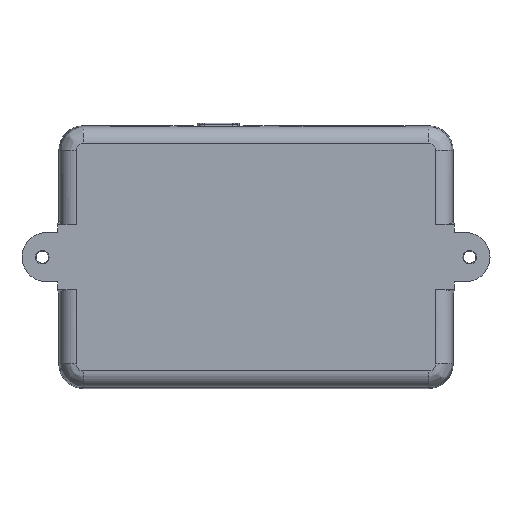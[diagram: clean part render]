
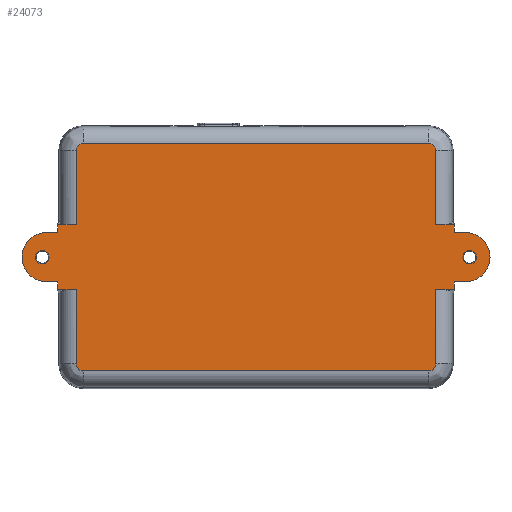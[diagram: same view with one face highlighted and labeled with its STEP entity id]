
A CAD part, front view. The second image highlights one B-rep face of the part: STEP entity #24073.
In plain terms, the highlighted planar face has unit normal (0, -1, 0).
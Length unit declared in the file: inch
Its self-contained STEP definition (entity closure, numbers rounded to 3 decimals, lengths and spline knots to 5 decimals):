
#749=FACE_BOUND($,#3961,.T.);
#750=FACE_BOUND($,#3962,.T.);
#1077=CIRCLE($,#25432,0.10275);
#1079=CIRCLE($,#25435,0.10275);
#1116=CIRCLE($,#25497,0.375);
#1117=CIRCLE($,#25498,0.10725);
#1118=CIRCLE($,#25499,0.10725);
#1119=CIRCLE($,#25500,0.375);
#1120=CIRCLE($,#25501,0.10725);
#1121=CIRCLE($,#25502,0.10725);
#1531=PLANE($,#25496);
#2616=FACE_OUTER_BOUND($,#3960,.T.);
#3960=EDGE_LOOP($,(#17093,#17094,#17095,#17096,#17097,#17098,#17099,#17100,
#17101,#17102,#17103,#17104,#17105,#17106,#17107,#17108,#17109,#17110,#17111,
#17112,#17113,#17114,#17115,#17116));
#3961=EDGE_LOOP($,(#17117));
#3962=EDGE_LOOP($,(#17118));
#5542=LINE($,#33937,#8274);
#5543=LINE($,#33939,#8275);
#5544=LINE($,#33943,#8276);
#5545=LINE($,#33945,#8277);
#5546=LINE($,#33947,#8278);
#5547=LINE($,#33949,#8279);
#5548=LINE($,#33953,#8280);
#5549=LINE($,#33957,#8281);
#5550=LINE($,#33959,#8282);
#5551=LINE($,#33961,#8283);
#5552=LINE($,#33963,#8284);
#5553=LINE($,#33967,#8285);
#5554=LINE($,#33969,#8286);
#5555=LINE($,#33971,#8287);
#5556=LINE($,#33973,#8288);
#5557=LINE($,#33977,#8289);
#5558=LINE($,#33981,#8290);
#5559=LINE($,#33982,#8291);
#8274=VECTOR($,#27533,0.12153);
#8275=VECTOR($,#27534,0.16826);
#8276=VECTOR($,#27537,0.16826);
#8277=VECTOR($,#27538,0.12153);
#8278=VECTOR($,#27539,0.2875);
#8279=VECTOR($,#27540,1.13247);
#8280=VECTOR($,#27543,5.264);
#8281=VECTOR($,#27546,1.13247);
#8282=VECTOR($,#27547,0.2875);
#8283=VECTOR($,#27548,0.12153);
#8284=VECTOR($,#27549,0.16826);
#8285=VECTOR($,#27552,0.16826);
#8286=VECTOR($,#27553,0.12153);
#8287=VECTOR($,#27554,0.2875);
#8288=VECTOR($,#27555,1.13247);
#8289=VECTOR($,#27558,5.264);
#8290=VECTOR($,#27561,1.13247);
#8291=VECTOR($,#27562,0.2875);
#11055=VERTEX_POINT($,#33823);
#11057=VERTEX_POINT($,#33828);
#11102=VERTEX_POINT($,#33935);
#11103=VERTEX_POINT($,#33936);
#11104=VERTEX_POINT($,#33938);
#11105=VERTEX_POINT($,#33940);
#11106=VERTEX_POINT($,#33942);
#11107=VERTEX_POINT($,#33944);
#11108=VERTEX_POINT($,#33946);
#11109=VERTEX_POINT($,#33948);
#11110=VERTEX_POINT($,#33950);
#11111=VERTEX_POINT($,#33952);
#11112=VERTEX_POINT($,#33954);
#11113=VERTEX_POINT($,#33956);
#11114=VERTEX_POINT($,#33958);
#11115=VERTEX_POINT($,#33960);
#11116=VERTEX_POINT($,#33962);
#11117=VERTEX_POINT($,#33964);
#11118=VERTEX_POINT($,#33966);
#11119=VERTEX_POINT($,#33968);
#11120=VERTEX_POINT($,#33970);
#11121=VERTEX_POINT($,#33972);
#11122=VERTEX_POINT($,#33974);
#11123=VERTEX_POINT($,#33976);
#11124=VERTEX_POINT($,#33978);
#11125=VERTEX_POINT($,#33980);
#13480=EDGE_CURVE($,#11055,#11055,#1077,.T.);
#13482=EDGE_CURVE($,#11057,#11057,#1079,.T.);
#13527=EDGE_CURVE($,#11102,#11103,#5542,.T.);
#13528=EDGE_CURVE($,#11104,#11102,#5543,.T.);
#13529=EDGE_CURVE($,#11105,#11104,#1116,.T.);
#13530=EDGE_CURVE($,#11106,#11105,#5544,.T.);
#13531=EDGE_CURVE($,#11107,#11106,#5545,.T.);
#13532=EDGE_CURVE($,#11108,#11107,#5546,.T.);
#13533=EDGE_CURVE($,#11108,#11109,#5547,.T.);
#13534=EDGE_CURVE($,#11109,#11110,#1117,.T.);
#13535=EDGE_CURVE($,#11110,#11111,#5548,.T.);
#13536=EDGE_CURVE($,#11111,#11112,#1118,.T.);
#13537=EDGE_CURVE($,#11112,#11113,#5549,.T.);
#13538=EDGE_CURVE($,#11113,#11114,#5550,.T.);
#13539=EDGE_CURVE($,#11114,#11115,#5551,.T.);
#13540=EDGE_CURVE($,#11115,#11116,#5552,.T.);
#13541=EDGE_CURVE($,#11116,#11117,#1119,.T.);
#13542=EDGE_CURVE($,#11117,#11118,#5553,.T.);
#13543=EDGE_CURVE($,#11118,#11119,#5554,.T.);
#13544=EDGE_CURVE($,#11119,#11120,#5555,.T.);
#13545=EDGE_CURVE($,#11120,#11121,#5556,.T.);
#13546=EDGE_CURVE($,#11121,#11122,#1120,.T.);
#13547=EDGE_CURVE($,#11122,#11123,#5557,.T.);
#13548=EDGE_CURVE($,#11123,#11124,#1121,.T.);
#13549=EDGE_CURVE($,#11124,#11125,#5558,.T.);
#13550=EDGE_CURVE($,#11103,#11125,#5559,.T.);
#17093=ORIENTED_EDGE($,*,*,#13527,.F.);
#17094=ORIENTED_EDGE($,*,*,#13528,.F.);
#17095=ORIENTED_EDGE($,*,*,#13529,.F.);
#17096=ORIENTED_EDGE($,*,*,#13530,.F.);
#17097=ORIENTED_EDGE($,*,*,#13531,.F.);
#17098=ORIENTED_EDGE($,*,*,#13532,.F.);
#17099=ORIENTED_EDGE($,*,*,#13533,.T.);
#17100=ORIENTED_EDGE($,*,*,#13534,.T.);
#17101=ORIENTED_EDGE($,*,*,#13535,.T.);
#17102=ORIENTED_EDGE($,*,*,#13536,.T.);
#17103=ORIENTED_EDGE($,*,*,#13537,.T.);
#17104=ORIENTED_EDGE($,*,*,#13538,.T.);
#17105=ORIENTED_EDGE($,*,*,#13539,.T.);
#17106=ORIENTED_EDGE($,*,*,#13540,.T.);
#17107=ORIENTED_EDGE($,*,*,#13541,.T.);
#17108=ORIENTED_EDGE($,*,*,#13542,.T.);
#17109=ORIENTED_EDGE($,*,*,#13543,.T.);
#17110=ORIENTED_EDGE($,*,*,#13544,.T.);
#17111=ORIENTED_EDGE($,*,*,#13545,.T.);
#17112=ORIENTED_EDGE($,*,*,#13546,.T.);
#17113=ORIENTED_EDGE($,*,*,#13547,.T.);
#17114=ORIENTED_EDGE($,*,*,#13548,.T.);
#17115=ORIENTED_EDGE($,*,*,#13549,.T.);
#17116=ORIENTED_EDGE($,*,*,#13550,.F.);
#17117=ORIENTED_EDGE($,*,*,#13480,.F.);
#17118=ORIENTED_EDGE($,*,*,#13482,.T.);
#24073=ADVANCED_FACE($,(#2616,#749,#750),#1531,.T.);
#25432=AXIS2_PLACEMENT_3D($,#33824,#27403,#27404);
#25435=AXIS2_PLACEMENT_3D($,#33829,#27409,#27410);
#25496=AXIS2_PLACEMENT_3D($,#33934,#27531,#27532);
#25497=AXIS2_PLACEMENT_3D($,#33941,#27535,#27536);
#25498=AXIS2_PLACEMENT_3D($,#33951,#27541,#27542);
#25499=AXIS2_PLACEMENT_3D($,#33955,#27544,#27545);
#25500=AXIS2_PLACEMENT_3D($,#33965,#27550,#27551);
#25501=AXIS2_PLACEMENT_3D($,#33975,#27556,#27557);
#25502=AXIS2_PLACEMENT_3D($,#33979,#27559,#27560);
#27403=DIRECTION('center_axis',(0.,-1.,0.));
#27404=DIRECTION('ref_axis',(0.,0.,1.));
#27409=DIRECTION('center_axis',(0.,1.,0.));
#27410=DIRECTION('ref_axis',(0.,0.,1.));
#27531=DIRECTION('center_axis',(0.,-1.,0.));
#27532=DIRECTION('ref_axis',(0.,0.,-1.));
#27533=DIRECTION($,(0.,0.,1.));
#27534=DIRECTION($,(1.,0.,0.));
#27535=DIRECTION('center_axis',(0.,1.,0.));
#27536=DIRECTION('ref_axis',(0.,0.,-1.));
#27537=DIRECTION($,(-1.,0.,0.));
#27538=DIRECTION($,(0.,0.,1.));
#27539=DIRECTION($,(-1.,0.,0.));
#27540=DIRECTION($,(0.,0.,-1.));
#27541=DIRECTION('center_axis',(0.,-1.,0.));
#27542=DIRECTION('ref_axis',(0.,0.,-1.));
#27543=DIRECTION($,(1.,0.,0.));
#27544=DIRECTION('center_axis',(0.,-1.,0.));
#27545=DIRECTION('ref_axis',(0.,0.,-1.));
#27546=DIRECTION($,(0.,0.,1.));
#27547=DIRECTION($,(1.,0.,0.));
#27548=DIRECTION($,(0.,0.,1.));
#27549=DIRECTION($,(1.,0.,0.));
#27550=DIRECTION('center_axis',(0.,-1.,0.));
#27551=DIRECTION('ref_axis',(0.,0.,-1.));
#27552=DIRECTION($,(-1.,0.,0.));
#27553=DIRECTION($,(0.,0.,1.));
#27554=DIRECTION($,(-1.,0.,0.));
#27555=DIRECTION($,(0.,0.,1.));
#27556=DIRECTION('center_axis',(0.,-1.,0.));
#27557=DIRECTION('ref_axis',(0.,0.,-1.));
#27558=DIRECTION($,(-1.,0.,0.));
#27559=DIRECTION('center_axis',(0.,-1.,0.));
#27560=DIRECTION('ref_axis',(0.,0.,-1.));
#27561=DIRECTION($,(0.,0.,-1.));
#27562=DIRECTION($,(1.,0.,0.));
#33823=CARTESIAN_POINT('',(-3.26,-0.754,0.10275));
#33824=CARTESIAN_POINT('Origin',(-3.26,-0.754,0.));
#33828=CARTESIAN_POINT('',(3.26,-0.754,0.10275));
#33829=CARTESIAN_POINT('Origin',(3.26,-0.754,0.));
#33934=CARTESIAN_POINT('Origin',(-2.632,-0.754,-1.629));
#33935=CARTESIAN_POINT('',(-3.02674,-0.754,0.375));
#33936=CARTESIAN_POINT('',(-3.02674,-0.754,0.49653));
#33937=CARTESIAN_POINT($,(-3.02674,-0.754,-1.629));
#33938=CARTESIAN_POINT('',(-3.195,-0.754,0.375));
#33939=CARTESIAN_POINT($,(-3.195,-0.754,0.375));
#33940=CARTESIAN_POINT('',(-3.195,-0.754,-0.375));
#33941=CARTESIAN_POINT('Origin',(-3.195,-0.754,0.));
#33942=CARTESIAN_POINT('',(-3.02674,-0.754,-0.375));
#33943=CARTESIAN_POINT($,(-3.195,-0.754,-0.375));
#33944=CARTESIAN_POINT('',(-3.02674,-0.754,-0.49653));
#33945=CARTESIAN_POINT($,(-3.02674,-0.754,-1.629));
#33946=CARTESIAN_POINT('',(-2.73925,-0.754,-0.49653));
#33947=CARTESIAN_POINT($,(-2.632,-0.754,-0.49653));
#33948=CARTESIAN_POINT('',(-2.73925,-0.754,-1.629));
#33949=CARTESIAN_POINT($,(-2.73925,-0.754,-1.629));
#33950=CARTESIAN_POINT('',(-2.632,-0.754,-1.73625));
#33951=CARTESIAN_POINT('Origin',(-2.632,-0.754,-1.629));
#33952=CARTESIAN_POINT('',(2.632,-0.754,-1.73625));
#33953=CARTESIAN_POINT($,(-2.632,-0.754,-1.73625));
#33954=CARTESIAN_POINT('',(2.73925,-0.754,-1.629));
#33955=CARTESIAN_POINT('Origin',(2.632,-0.754,-1.629));
#33956=CARTESIAN_POINT('',(2.73925,-0.754,-0.49653));
#33957=CARTESIAN_POINT($,(2.73925,-0.754,-1.629));
#33958=CARTESIAN_POINT('',(3.02674,-0.754,-0.49653));
#33959=CARTESIAN_POINT($,(-2.632,-0.754,-0.49653));
#33960=CARTESIAN_POINT('',(3.02674,-0.754,-0.375));
#33961=CARTESIAN_POINT($,(3.02674,-0.754,-1.629));
#33962=CARTESIAN_POINT('',(3.195,-0.754,-0.375));
#33963=CARTESIAN_POINT($,(3.195,-0.754,-0.375));
#33964=CARTESIAN_POINT('',(3.195,-0.754,0.375));
#33965=CARTESIAN_POINT('Origin',(3.195,-0.754,0.));
#33966=CARTESIAN_POINT('',(3.02674,-0.754,0.375));
#33967=CARTESIAN_POINT($,(3.195,-0.754,0.375));
#33968=CARTESIAN_POINT('',(3.02674,-0.754,0.49653));
#33969=CARTESIAN_POINT($,(3.02674,-0.754,-1.629));
#33970=CARTESIAN_POINT('',(2.73925,-0.754,0.49653));
#33971=CARTESIAN_POINT($,(-2.632,-0.754,0.49653));
#33972=CARTESIAN_POINT('',(2.73925,-0.754,1.629));
#33973=CARTESIAN_POINT($,(2.73925,-0.754,-1.629));
#33974=CARTESIAN_POINT('',(2.632,-0.754,1.73625));
#33975=CARTESIAN_POINT('Origin',(2.632,-0.754,1.629));
#33976=CARTESIAN_POINT('',(-2.632,-0.754,1.73625));
#33977=CARTESIAN_POINT($,(-2.632,-0.754,1.73625));
#33978=CARTESIAN_POINT('',(-2.73925,-0.754,1.629));
#33979=CARTESIAN_POINT('Origin',(-2.632,-0.754,1.629));
#33980=CARTESIAN_POINT('',(-2.73925,-0.754,0.49653));
#33981=CARTESIAN_POINT($,(-2.73925,-0.754,-1.629));
#33982=CARTESIAN_POINT($,(-2.632,-0.754,0.49653));
